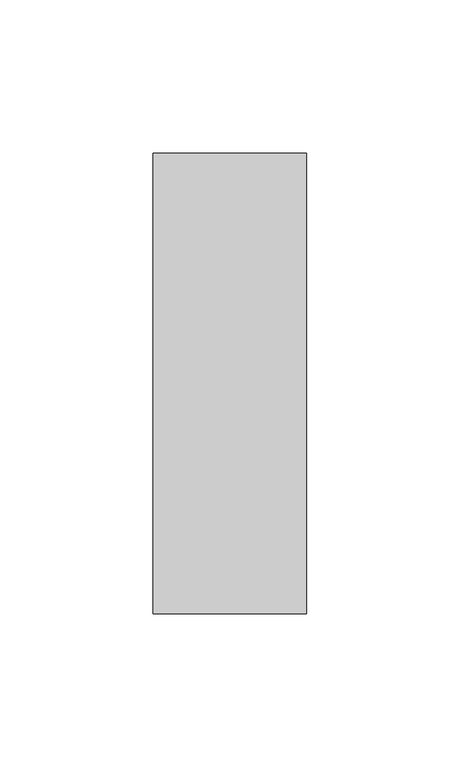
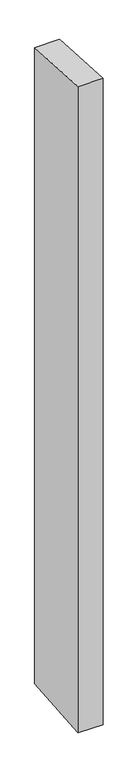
"""IFC4 building model written with IfcOpenShell, lengths in millimetres: member geometry, Прямоугольный импост : 50 x 150 мм."""

from ifc_helpers import new_model, si_unit, origin, place, context, project, spatial, faceted_brep, source, transform, mapped, element, save


def member_00760d53(model_context):
    return source(origin(), model_context, "Body", "Brep", [
        faceted_brep([(-25.0, 75.0, -4.5834538), (25.0, 75.0, -4.0949396), (25.0, 75.0, -1346.7516857), (-25.0, 75.0, -1346.2748296), (-25.0, -75.0, 4.0949396), (-25.0, -75.0, -1358.6305568), (25.0, -75.0, 4.5834538), (25.0, -75.0, -1359.107413)], [[[0, 1, 2, 3]], [[4, 0, 3, 5]], [[6, 4, 5, 7]], [[1, 6, 7, 2]], [[1, 0, 4, 6]], [[2, 7, 5, 3]]]),
    ])


if __name__ == "__main__":
    model = new_model("IFC4")
    model_context = context("Model", 3, world=origin())
    ifc_project = project(units=[si_unit("LENGTHUNIT", "METRE", prefix="MILLI")], contexts=[model_context])
    site = spatial("IfcSite", under=ifc_project)
    building = spatial("IfcBuilding", under=site)
    placement = place(None, origin())
    member_shape = member_00760d53(model_context)
    element("IfcMember", 1, ObjectType="Прямоугольный импост : 50 x 150 мм", at=placement, inside=building, context=model_context, shape_type="MappedRepresentation", body=[
        mapped(member_shape, transform((0.0, 0.0, 0.0), x_axis=(1.0, 0.0, 0.0), y_axis=(0.0, 1.0, 0.0), z_axis=(0.0, 0.0, 1.0))),
    ])
    save(model, "model.ifc")
